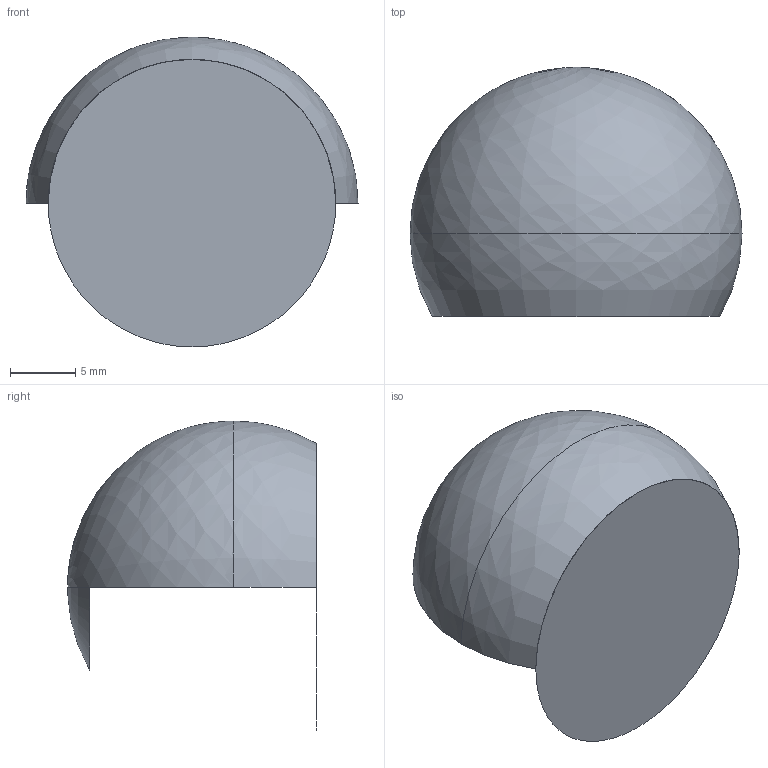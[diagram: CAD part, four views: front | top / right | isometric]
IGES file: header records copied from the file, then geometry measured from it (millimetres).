
Start section: SolidWorks IGES file using analytic representation for surfaces
Global section: file name: D:\Solid_parts\MECHeDESIGN\Bal-Tec\Catalog 105-A\Distribution\IGES\100-TB.IGS; native system: SolidWorks 2005 by SolidWorks Corporation; preprocessor: SolidWorks 2005 by SolidWorks Corporation; author: rvillegas; date: 061205.185256; units: inch
Bounding box: 25.4 x 19.05 x 23.7 mm (x, y, z)
Surface area: 1715.6 mm2 (no closed solid volume)
Topology: 0 solids, 0 shells, 3 faces, 40 edges, 39 vertices
Faces by surface type: revolution 2, bspline 1
